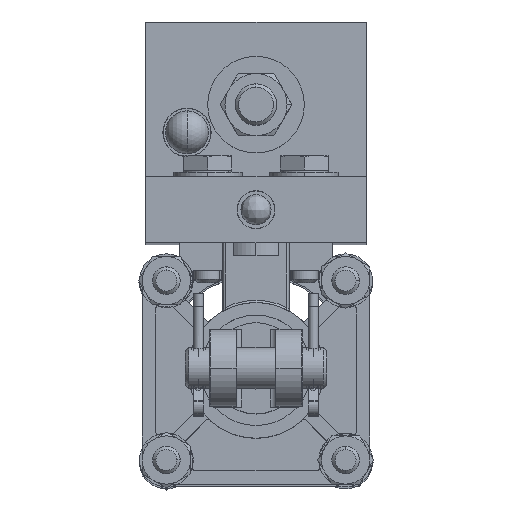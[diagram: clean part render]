
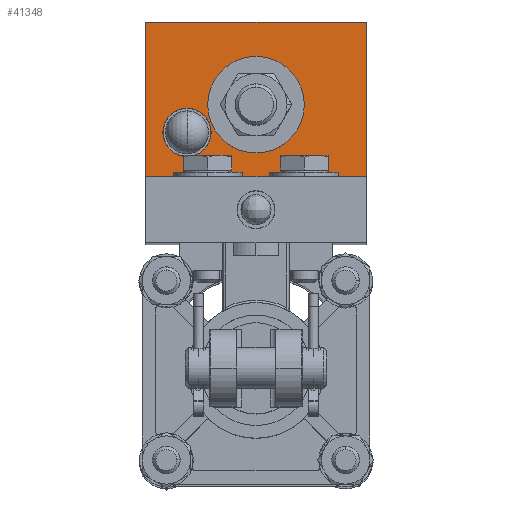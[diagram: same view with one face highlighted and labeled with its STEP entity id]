
A CAD part, top view. The second image highlights one B-rep face of the part: STEP entity #41348.
In plain terms, the highlighted planar face has unit normal (0, 0, 1).
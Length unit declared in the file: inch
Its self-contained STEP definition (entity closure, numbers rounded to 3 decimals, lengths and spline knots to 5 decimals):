
#577 = CIRCLE ( 'NONE', #21087, 0.32 ) ;
#688 = ORIENTED_EDGE ( 'NONE', *, *, #33590, .F. ) ;
#909 = DIRECTION ( 'NONE',  ( 0., -1., 0. ) ) ;
#2351 = AXIS2_PLACEMENT_3D ( 'NONE', #41885, #20636, #45457 ) ;
#2805 = VERTEX_POINT ( 'NONE', #5178 ) ;
#3118 = EDGE_CURVE ( 'NONE', #22106, #3740, #24908, .T. ) ;
#3431 = VERTEX_POINT ( 'NONE', #17902 ) ;
#3444 = VERTEX_POINT ( 'NONE', #42680 ) ;
#3740 = VERTEX_POINT ( 'NONE', #9066 ) ;
#5178 = CARTESIAN_POINT ( 'NONE',  ( -1., 3.158, 4.65625 ) ) ;
#5399 = FACE_BOUND ( 'NONE', #42658, .T. ) ;
#6769 = LINE ( 'NONE', #15920, #16217 ) ;
#6965 = CARTESIAN_POINT ( 'NONE',  ( 1., 3.158, 4.65625 ) ) ;
#7030 = EDGE_LOOP ( 'NONE', ( #44102, #19191, #39649, #25148 ) ) ;
#7553 = DIRECTION ( 'NONE',  ( 1., 0., 0. ) ) ;
#9066 = CARTESIAN_POINT ( 'NONE',  ( -0.84375, 2.158, 4.65625 ) ) ;
#9753 = AXIS2_PLACEMENT_3D ( 'NONE', #43381, #22129, #909 ) ;
#10719 = EDGE_CURVE ( 'NONE', #3740, #22106, #16689, .T. ) ;
#11153 = CARTESIAN_POINT ( 'NONE',  ( -1., 1.752, 4.65625 ) ) ;
#12366 = VERTEX_POINT ( 'NONE', #16998 ) ;
#13138 = CARTESIAN_POINT ( 'NONE',  ( -1., 1.752, 4.65625 ) ) ;
#13187 = AXIS2_PLACEMENT_3D ( 'NONE', #19115, #43937, #22682 ) ;
#13234 = CARTESIAN_POINT ( 'NONE',  ( -0.625, 2.158, 4.65625 ) ) ;
#14184 = CARTESIAN_POINT ( 'NONE',  ( 0., 2.408, 4.65625 ) ) ;
#14855 = FACE_BOUND ( 'NONE', #39523, .T. ) ;
#15137 = VECTOR ( 'NONE', #7553, 39.37008 ) ;
#15424 = VERTEX_POINT ( 'NONE', #43762 ) ;
#15840 = CIRCLE ( 'NONE', #9753, 0.32 ) ;
#15920 = CARTESIAN_POINT ( 'NONE',  ( -1., 3.158, 4.65625 ) ) ;
#16217 = VECTOR ( 'NONE', #19581, 39.37008 ) ;
#16643 = DIRECTION ( 'NONE',  ( 1., 0., 0. ) ) ;
#16689 = CIRCLE ( 'NONE', #13187, 0.21875 ) ;
#16979 = EDGE_CURVE ( 'NONE', #26332, #2805, #6769, .T. ) ;
#16998 = CARTESIAN_POINT ( 'NONE',  ( 0., 2.728, 4.65625 ) ) ;
#17331 = LINE ( 'NONE', #6965, #35047 ) ;
#17722 = DIRECTION ( 'NONE',  ( 0., -1., 0. ) ) ;
#17902 = CARTESIAN_POINT ( 'NONE',  ( 0., 2.088, 4.65625 ) ) ;
#19115 = CARTESIAN_POINT ( 'NONE',  ( -0.625, 2.158, 4.65625 ) ) ;
#19191 = ORIENTED_EDGE ( 'NONE', *, *, #16979, .F. ) ;
#19581 = DIRECTION ( 'NONE',  ( 0., 1., 0. ) ) ;
#19902 = EDGE_CURVE ( 'NONE', #26332, #15424, #24519, .T. ) ;
#20636 = DIRECTION ( 'NONE',  ( 0., 0., -1. ) ) ;
#21087 = AXIS2_PLACEMENT_3D ( 'NONE', #14184, #38911, #17722 ) ;
#21505 = EDGE_CURVE ( 'NONE', #2805, #3444, #38317, .T. ) ;
#22106 = VERTEX_POINT ( 'NONE', #28012 ) ;
#22129 = DIRECTION ( 'NONE',  ( 0., 0., 1. ) ) ;
#22682 = DIRECTION ( 'NONE',  ( 1., 0., 0. ) ) ;
#23018 = ORIENTED_EDGE ( 'NONE', *, *, #3118, .F. ) ;
#24031 = PLANE ( 'NONE',  #2351 ) ;
#24519 = LINE ( 'NONE', #11153, #15137 ) ;
#24908 = CIRCLE ( 'NONE', #45182, 0.21875 ) ;
#25148 = ORIENTED_EDGE ( 'NONE', *, *, #45536, .T. ) ;
#26046 = ORIENTED_EDGE ( 'NONE', *, *, #40151, .F. ) ;
#26332 = VERTEX_POINT ( 'NONE', #13138 ) ;
#27343 = ORIENTED_EDGE ( 'NONE', *, *, #10719, .F. ) ;
#28012 = CARTESIAN_POINT ( 'NONE',  ( -0.40625, 2.158, 4.65625 ) ) ;
#33342 = VECTOR ( 'NONE', #16643, 39.37008 ) ;
#33590 = EDGE_CURVE ( 'NONE', #3431, #12366, #577, .T. ) ;
#33671 = FACE_OUTER_BOUND ( 'NONE', #7030, .T. ) ;
#34562 = DIRECTION ( 'NONE',  ( 0., 0., 1. ) ) ;
#35019 = DIRECTION ( 'NONE',  ( 1., 0., 0. ) ) ;
#35047 = VECTOR ( 'NONE', #35441, 39.37008 ) ;
#35441 = DIRECTION ( 'NONE',  ( 0., 1., 0. ) ) ;
#38317 = LINE ( 'NONE', #41410, #33342 ) ;
#38911 = DIRECTION ( 'NONE',  ( 0., 0., 1. ) ) ;
#39523 = EDGE_LOOP ( 'NONE', ( #23018, #27343 ) ) ;
#39649 = ORIENTED_EDGE ( 'NONE', *, *, #19902, .T. ) ;
#40151 = EDGE_CURVE ( 'NONE', #12366, #3431, #15840, .T. ) ;
#41348 = ADVANCED_FACE ( 'NONE', ( #33671, #5399, #14855 ), #24031, .F. ) ;
#41410 = CARTESIAN_POINT ( 'NONE',  ( -1., 3.158, 4.65625 ) ) ;
#41885 = CARTESIAN_POINT ( 'NONE',  ( -1., 3.158, 4.65625 ) ) ;
#42658 = EDGE_LOOP ( 'NONE', ( #688, #26046 ) ) ;
#42680 = CARTESIAN_POINT ( 'NONE',  ( 1., 3.158, 4.65625 ) ) ;
#43381 = CARTESIAN_POINT ( 'NONE',  ( 0., 2.408, 4.65625 ) ) ;
#43762 = CARTESIAN_POINT ( 'NONE',  ( 1., 1.752, 4.65625 ) ) ;
#43937 = DIRECTION ( 'NONE',  ( 0., 0., 1. ) ) ;
#44102 = ORIENTED_EDGE ( 'NONE', *, *, #21505, .F. ) ;
#45182 = AXIS2_PLACEMENT_3D ( 'NONE', #13234, #34562, #35019 ) ;
#45457 = DIRECTION ( 'NONE',  ( -1., 0., 0. ) ) ;
#45536 = EDGE_CURVE ( 'NONE', #15424, #3444, #17331, .T. ) ;
